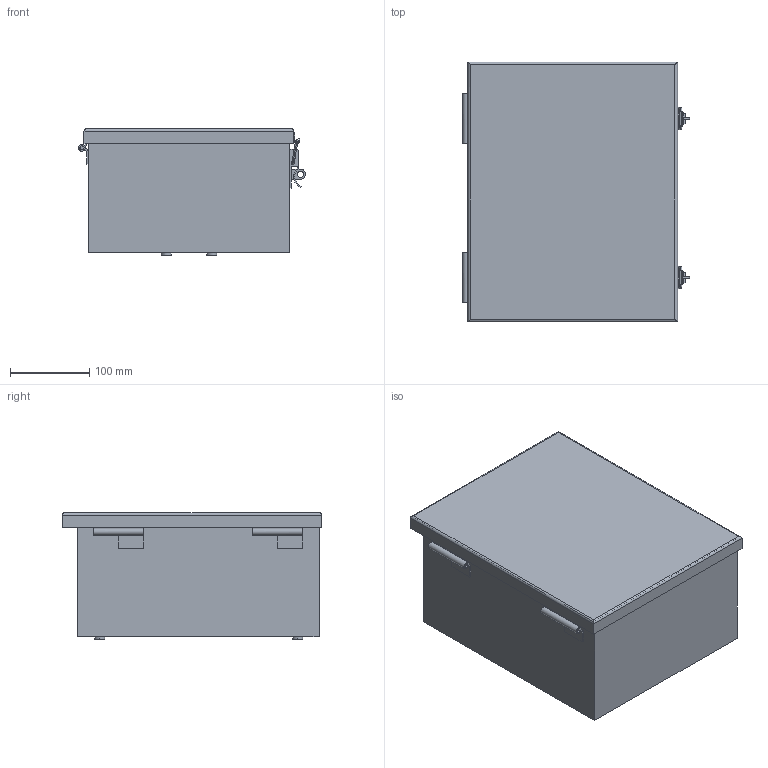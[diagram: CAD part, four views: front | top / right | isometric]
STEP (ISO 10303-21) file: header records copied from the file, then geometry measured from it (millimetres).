
FILE_DESCRIPTION((''),'1');
FILE_NAME('4','2001-04-17T',('jlue'),(''),'PRO/ENGINEER BY PARAMETRIC TECHNOLOGY CORPORATION, 9846','PRO/ENGINEER BY PARAMETRIC TECHNOLOGY CORPORATION, 9846','');
FILE_SCHEMA(('CONFIG_CONTROL_DESIGN'));
Length unit declared in the file: inch
Products named in the file (1): 4
Bounding box: 286.13 x 327.51 x 159.82 mm (x, y, z)
Surface area: 748990.1 mm2 (no closed solid volume)
Topology: 0 solids, 0 shells, 223 faces, 1189 edges, 1202 vertices
Faces by surface type: plane 135, cylinder 72, torus 16
Entity records: 6290 total; most frequent: CARTESIAN_POINT 1212, DIRECTION 1183, COMPOSITE_CURVE_SEGMENT 1152, TRIMMED_CURVE 585, VECTOR 433, LINE 433, AXIS2_PLACEMENT_3D 375, CURVE_BOUNDED_SURFACE 223
